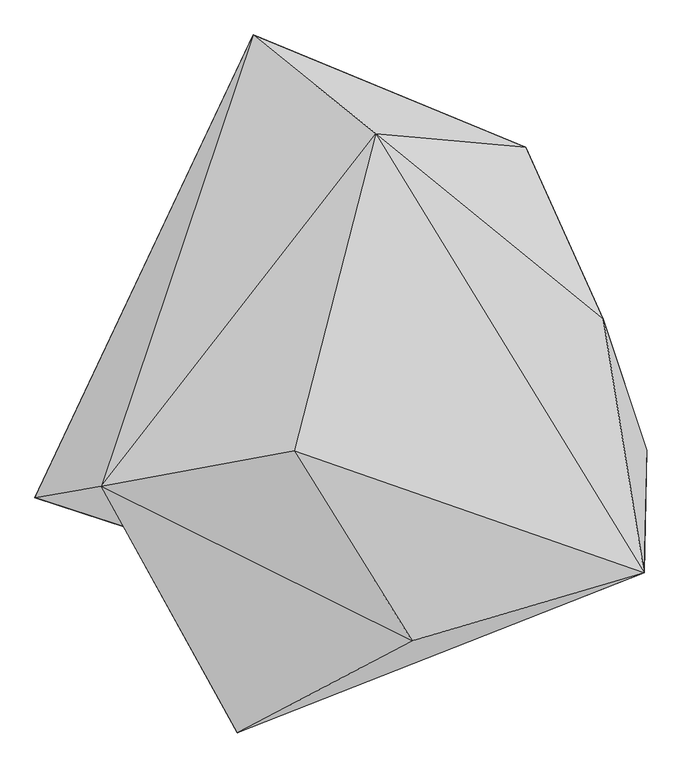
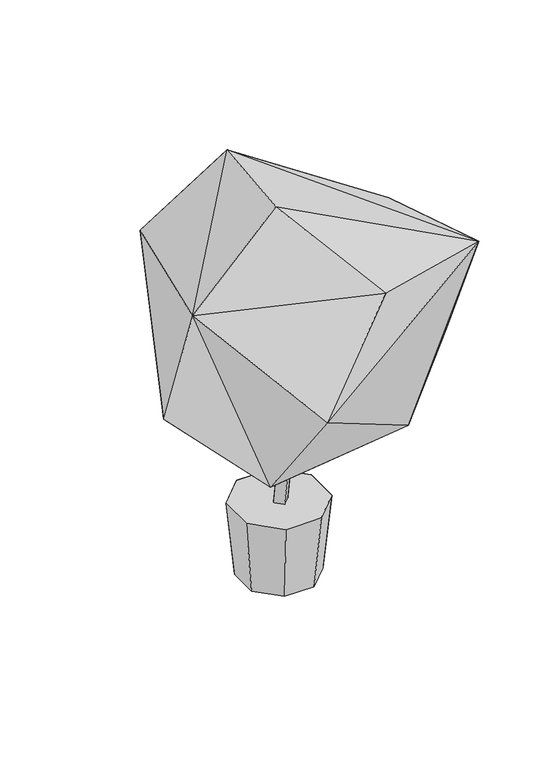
"""IFC4 building model written with IfcOpenShell, lengths in millimetres: geographic element geometry, Enscape AssetDefinition - Potted Plant 009 Mango Tree : Enscape AssetDefinition - Potted Plant 009 Mango Tree."""

import ifcopenshell
import ifcopenshell.guid

model = None  # the IFC model being written
_history = None  # IfcOwnerHistory: only IFC2X3 demands one
_inside = {}  # id of a spatial element -> (the spatial element, [elements in it])
_under = {}  # id of a project, library or spatial element -> (it, [spatial elements below it])
_declared = {}  # id of a project -> (the project, [libraries it declares])
_typed = {}  # id of a type object -> (the type object, [elements of that type])
_made_of = {}  # id of a material, layer set ... -> (it, [elements and type objects made of it])


def new_model(schema):
    """Start an empty IFC model of exactly this schema.

    Asked for "IFC4X3", IfcOpenShell would pick the latest addendum, in which some entities
    have other attributes; the version numbers below select the first issue.
    IFC2X3 requires an IfcOwnerHistory on every rooted entity: one is made here for all.
    """
    global model, _history
    if schema == "IFC4X3":
        model = ifcopenshell.file(schema_version=(4, 3, 0, 0))
    else:
        model = ifcopenshell.file(schema=schema)
    _inside.clear()
    _under.clear()
    _declared.clear()
    _typed.clear()
    _made_of.clear()
    _history = None
    if model.schema == "IFC2X3":
        org = make("IfcOrganization", Name="unknown")
        user = make(
            "IfcPersonAndOrganization",
            ThePerson=make("IfcPerson", FamilyName="unknown"),
            TheOrganization=org,
        )
        app = make(
            "IfcApplication",
            ApplicationDeveloper=org,
            Version="unknown",
            ApplicationFullName="unknown",
            ApplicationIdentifier="unknown",
        )
        _history = make(
            "IfcOwnerHistory",
            OwningUser=user,
            OwningApplication=app,
            ChangeAction="ADDED",
            CreationDate=0,
        )
    return model


def make(cls, **values):
    """One entity of the class cls with the attributes given. An attribute that is None is left unset."""
    return model.create_entity(
        cls, **{name: value for name, value in values.items() if value is not None}
    )


def rooted(cls, **values):
    """An entity with a GlobalId (a new one), such as an element, a storey or a relation."""
    return make(cls, GlobalId=ifcopenshell.guid.new(), OwnerHistory=_history, **values)


def si_unit(unit_type, name, prefix=None):
    """IfcSIUnit, for example si_unit("LENGTHUNIT", "METRE", prefix="MILLI")."""
    return make("IfcSIUnit", UnitType=unit_type, Prefix=prefix, Name=name)


def assignment(units):
    """IfcUnitAssignment: the units of a project."""
    return None if units is None else make("IfcUnitAssignment", Units=units)


def point(xyz):
    """IfcCartesianPoint."""
    return None if xyz is None else make("IfcCartesianPoint", Coordinates=xyz)


def direction(xyz):
    """IfcDirection."""
    return None if xyz is None else make("IfcDirection", DirectionRatios=xyz)


def frame(location, z_axis=None, x_axis=None):
    """IfcAxis2Placement3D, a coordinate frame: its origin and axes. An axis left out is left unset."""
    return make(
        "IfcAxis2Placement3D",
        Location=point(location),
        Axis=direction(z_axis),
        RefDirection=direction(x_axis),
    )


def origin():
    """The frame at (0, 0, 0) with its axes left unset."""
    return frame((0.0, 0.0, 0.0))


def place(relative_to, where):
    """IfcLocalPlacement: puts the frame where relative to a parent placement (None: the world)."""
    return make(
        "IfcLocalPlacement", PlacementRelTo=relative_to, RelativePlacement=where
    )


def context(
    kind, dimensions, precision=None, world=None, true_north=None, identifier=None
):
    """IfcGeometricRepresentationContext, for example the 3D "Model" context."""
    return make(
        "IfcGeometricRepresentationContext",
        ContextIdentifier=identifier,
        ContextType=kind,
        CoordinateSpaceDimension=dimensions,
        Precision=precision,
        WorldCoordinateSystem=world,
        TrueNorth=true_north,
    )


def project(units=None, contexts=None):
    """IfcProject with its units and contexts."""
    return rooted(
        "IfcProject",
        Name="project",
        RepresentationContexts=contexts,
        UnitsInContext=assignment(units),
    )


def spatial(cls, under=None, at=None, **own):
    """A site, building, storey or space (cls), placed at a placement, below another one or the project."""
    s = rooted(cls, ObjectPlacement=at, **own)
    if under is not None:
        _under.setdefault(under.id(), (under, []))[1].append(s)
    return s


def point_list(points):
    """IfcCartesianPointList2D or 3D."""
    cls = (
        "IfcCartesianPointList2D" if len(points[0]) == 2 else "IfcCartesianPointList3D"
    )
    return make(cls, CoordList=points)


def triangles(points, corners, closed=None, point_numbers=None):
    """IfcTriangulatedFaceSet: each triangle names its three corners, points numbered from 1."""
    return make(
        "IfcTriangulatedFaceSet",
        Coordinates=point_list(points),
        Closed=closed,
        CoordIndex=corners,
        PnIndex=point_numbers,
    )


def shape(context_of_items, identifier, shape_type, items):
    """IfcShapeRepresentation: the items that make up one representation, for example the "Body"."""
    return make(
        "IfcShapeRepresentation",
        ContextOfItems=context_of_items,
        RepresentationIdentifier=identifier,
        RepresentationType=shape_type,
        Items=items,
    )


def source(mapping_origin, context_of_items, identifier, shape_type, items):
    """IfcRepresentationMap: a shape defined once, which mapped items show again and again."""
    return make(
        "IfcRepresentationMap",
        MappingOrigin=mapping_origin,
        MappedRepresentation=shape(context_of_items, identifier, shape_type, items),
    )


def transform(
    local_origin,
    x_axis=None,
    y_axis=None,
    z_axis=None,
    scale=None,
    scale2=None,
    scale3=None,
    uniform=True,
):
    """IfcCartesianTransformationOperator3D, or its non-uniform kind. x_axis, y_axis, z_axis: its Axis1, 2, 3."""
    if uniform:
        return make(
            "IfcCartesianTransformationOperator3D",
            Axis1=direction(x_axis),
            Axis2=direction(y_axis),
            LocalOrigin=point(local_origin),
            Scale=scale,
            Axis3=direction(z_axis),
        )
    return make(
        "IfcCartesianTransformationOperator3DnonUniform",
        Axis1=direction(x_axis),
        Axis2=direction(y_axis),
        LocalOrigin=point(local_origin),
        Scale=scale,
        Axis3=direction(z_axis),
        Scale2=scale2,
        Scale3=scale3,
    )


def mapped(mapping_source, mapping_target):
    """IfcMappedItem: shows the shape of a source again, moved by a transform."""
    return make(
        "IfcMappedItem", MappingSource=mapping_source, MappingTarget=mapping_target
    )


def made_of(thing, what):
    """Note that an element or type object is made of a material, layer set ...; save() writes the relation."""
    if what is not None:
        _made_of.setdefault(what.id(), (what, []))[1].append(thing)
    return thing


def element(
    cls,
    number,
    at=None,
    inside=None,
    cuts=None,
    type_object=None,
    material=None,
    context=None,
    identifier="Body",
    shape_type=None,
    held_by="IfcProductDefinitionShape",
    body=None,
    shapes=None,
    **own,
):
    """One element of the class cls, such as IfcWall. Its Tag is "e" and its number.

    at: its placement. inside: the storey or other place that contains it. cuts: it is an
    opening in that element (IfcRelVoidsElement). A single representation is given by context,
    identifier, shape_type and body (its items); several are given by shapes. held_by: the class
    of the entity that holds the representations. save() writes the other relations.
    """
    e = rooted(cls, Tag="e%d" % number, ObjectPlacement=at, **own)
    if body is not None:
        shapes = [shape(context, identifier, shape_type, body)]
    if shapes is not None:
        e.Representation = make(held_by, Representations=shapes)
    if inside is not None:
        _inside.setdefault(inside.id(), (inside, []))[1].append(e)
    if cuts is not None:
        rooted(
            "IfcRelVoidsElement", RelatingBuildingElement=cuts, RelatedOpeningElement=e
        )
    if type_object is not None:
        _typed.setdefault(type_object.id(), (type_object, []))[1].append(e)
    return made_of(e, material)


def aggregate(whole, parts):
    """IfcRelAggregates: a whole, such as a stair, and the parts it consists of."""
    return rooted("IfcRelAggregates", RelatingObject=whole, RelatedObjects=parts)


def save(model, path):
    """Write the relations noted so far, then the file.

    IfcRelAggregates (storeys below a building ...), IfcRelContainedInSpatialStructure (elements
    in a storey), IfcRelDefinesByType, IfcRelAssociatesMaterial and IfcRelDeclares: one each for
    every whole, place, type object, material and project.
    """
    for whole, parts in _under.values():
        aggregate(whole, parts)
    for where, things in _inside.values():
        rooted(
            "IfcRelContainedInSpatialStructure",
            RelatedElements=things,
            RelatingStructure=where,
        )
    for kind, things in _typed.values():
        rooted("IfcRelDefinesByType", RelatedObjects=things, RelatingType=kind)
    for what, things in _made_of.values():
        rooted("IfcRelAssociatesMaterial", RelatedObjects=things, RelatingMaterial=what)
    for by, libraries in _declared.values():
        rooted("IfcRelDeclares", RelatingContext=by, RelatedDefinitions=libraries)
    model.write(path)


def geographic_element_af767891(model_context):
    return source(origin(), model_context, "Body", "Tessellation", [
        triangles([(-170.3535553, 464.0426419, 916.9260086), (-166.1136615, 297.9870801, 714.6399548), (17.0237985, 313.520507, 1210.3142778), (217.9014706, 209.2811756, 618.8828636), (246.090811, 292.301199, 1008.3596718), (364.4323339, 29.6676386, 1100.9721874), (-503.4429259, -242.1516983, 829.5359213), (-195.9202542, 17.7026202, 533.0539819), (-220.1741153, -334.4591271, 559.6164957), (-122.8866579, 195.6156761, 463.4060529), (149.7211028, -23.8470886, 548.8120317), (259.4146162, -260.304442, 553.4773355), (-194.1727591, -601.6664363, 928.64368), (430.9881188, -170.0496313, 760.5991407), (426.49279, -357.2118444, 1168.4651608), (72.8743173, -460.6157072, 1181.2653242), (-107.4925667, -170.7047693, 1358.1873013), (-402.4083226, -225.0833179, 1129.2421915), (135.2443974, -56.0204995, 240.1991648), (-135.2443974, 56.0201771, 240.1991648), (-112.5926642, -46.6374513, -0.2970365), (-135.2443974, -56.0204995, 240.1991648), (135.2443974, 56.0201771, 240.1991648), (56.020336, 135.2442521, 240.1992375), (112.5926642, -46.6374513, -0.2970365), (112.5926642, 46.6374513, -0.2969565), (-56.020336, 135.2442521, 240.1992375), (-46.6374513, 112.5926642, -0.2969165), (46.6374513, 112.5926642, -0.2969165), (-112.5926642, 46.6374513, -0.2969565), (-46.6374513, -112.5926642, -0.2970765), (-56.020336, -135.2445519, 240.1990921), (46.6374513, -112.5926642, -0.2970765), (56.020336, -135.2445519, 240.1990921), (-5.2249383, 25.3096197, 109.2577024), (-27.7446705, 2.7898869, 109.2577024), (41.8665034, -33.3620057, 590.7019893), (17.2957943, 2.7898869, 109.2577024), (19.3457714, -10.8412714, 590.7019893), (19.3457714, -55.8817407, 590.7019893), (-3.1739626, -33.3620057, 590.7019893), (-5.2249383, -19.7308473, 109.2577024)], [[41, 36, 42], [41, 42, 40], [42, 37, 40], [42, 38, 37], [39, 35, 36], [39, 37, 38], [39, 36, 41], [39, 38, 35], [34, 33, 25], [32, 31, 33], [32, 33, 34], [21, 31, 32], [20, 30, 21], [27, 30, 20], [27, 28, 30], [26, 29, 24], [24, 29, 28], [24, 28, 27], [26, 24, 23], [23, 25, 26], [23, 19, 25], [34, 25, 19], [27, 22, 24], [23, 24, 22], [22, 32, 34], [20, 21, 22], [21, 32, 22], [27, 20, 22], [22, 34, 19], [22, 19, 23], [17, 3, 18], [18, 16, 17], [16, 18, 13], [15, 16, 13], [3, 17, 15], [15, 17, 16], [12, 14, 15], [12, 15, 13], [13, 9, 12], [18, 9, 13], [11, 12, 9], [12, 11, 14], [6, 15, 14], [14, 11, 6], [6, 3, 15], [4, 6, 11], [10, 4, 11], [8, 11, 9], [10, 11, 8], [7, 8, 9], [18, 7, 9], [2, 10, 8], [10, 2, 4], [7, 2, 8], [4, 5, 6], [3, 6, 5], [5, 4, 2], [18, 1, 7], [3, 1, 18], [7, 1, 2], [3, 5, 1], [1, 5, 2]], closed=False),
    ])


if __name__ == "__main__":
    model = new_model("IFC4")
    model_context = context("Model", 3, world=origin())
    ifc_project = project(units=[si_unit("LENGTHUNIT", "METRE", prefix="MILLI")], contexts=[model_context])
    site = spatial("IfcSite", under=ifc_project)
    building = spatial("IfcBuilding", under=site)
    placement = place(None, origin())
    geographic_element_shape = geographic_element_af767891(model_context)
    element("IfcGeographicElement", 1, ObjectType="Enscape AssetDefinition - Potted Plant 009 Mango Tree : Enscape AssetDefinition - Potted Plant 009 Mango Tree", at=placement, inside=building, context=model_context, shape_type="MappedRepresentation", body=[
        mapped(geographic_element_shape, transform((0.0, 0.0, 0.0), x_axis=(1.0, 0.0, 0.0), y_axis=(0.0, 1.0, 0.0), z_axis=(0.0, 0.0, 1.0))),
    ])
    save(model, "model.ifc")
